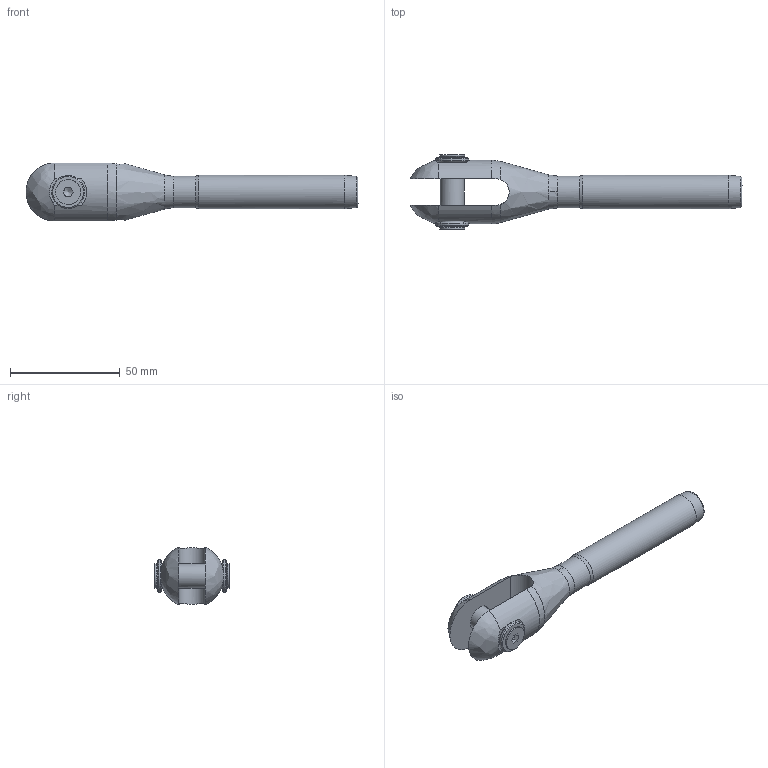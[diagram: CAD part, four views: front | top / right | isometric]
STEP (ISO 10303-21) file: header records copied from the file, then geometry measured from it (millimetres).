
FILE_DESCRIPTION(/* description */ (''),/* implementation_level */ '2;1');
FILE_NAME(/* name */ 'MAC 08_42CrMo4',/* time_stamp */ '2023-05-23T16:55:13+02:00',/* author */ (''),/* organization */ (''),/* preprocessor_version */ 'ST-DEVELOPER v16.5',/* originating_system */ 'Rhino 7.22',/* authorisation */ '');
FILE_SCHEMA (('CONFIG_CONTROL_DESIGN'));
Length unit declared in the file: millimetre
Products named in the file (1): Document
Bounding box: 151.19 x 33.9 x 26.4 mm (x, y, z)
Volume: 36443.1 mm3; surface area: 14000.7 mm2
Topology: 6 solids, 6 shells, 75 faces, 210 edges, 145 vertices
Faces by surface type: plane 29, bspline 24, cylinder 22
Full cylindrical faces by diameter (mm): 4.917 x2, 6 x2, 6.5 x2, 11 x1, 11.34 x2, 12 x2, 14.5 x1, 15 x2, 15.3 x1
Entity records: 3066 total; most frequent: CARTESIAN_POINT 1723, ORIENTED_EDGE 412, EDGE_CURVE 206, VERTEX_POINT 145, EDGE_LOOP 85, B_SPLINE_CURVE_WITH_KNOTS 80, ADVANCED_FACE 75, FACE_OUTER_BOUND 75
